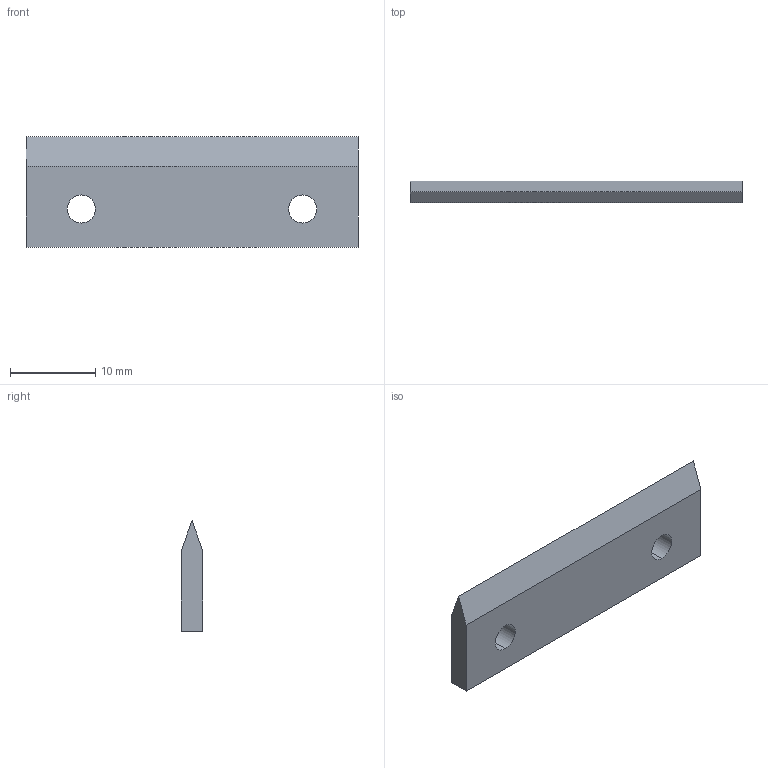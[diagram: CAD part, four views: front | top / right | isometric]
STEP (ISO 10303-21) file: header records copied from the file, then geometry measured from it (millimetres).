
FILE_DESCRIPTION (( 'STEP AP214' ), '1' );
FILE_NAME ('奻絮え.STEP', '2024-11-14T11:32:45', ( '' ), ( '' ), 'SwSTEP 2.0', 'SolidWorks 2021', '' );
FILE_SCHEMA (( 'AUTOMOTIVE_DESIGN' ));
Length unit declared in the file: millimetre
Products named in the file (1): 奻絮え
Bounding box: 39 x 2.5 x 13 mm (x, y, z)
Volume: 1054.1 mm3; surface area: 1202.3 mm2
Topology: 1 solids, 1 shells, 11 faces, 27 edges, 18 vertices
Faces by surface type: plane 7, cylinder 4
Entity records: 371 total; most frequent: DIRECTION 59, CARTESIAN_POINT 57, ORIENTED_EDGE 54, EDGE_CURVE 27, AXIS2_PLACEMENT_3D 20, LINE 19, VECTOR 19, VERTEX_POINT 18
